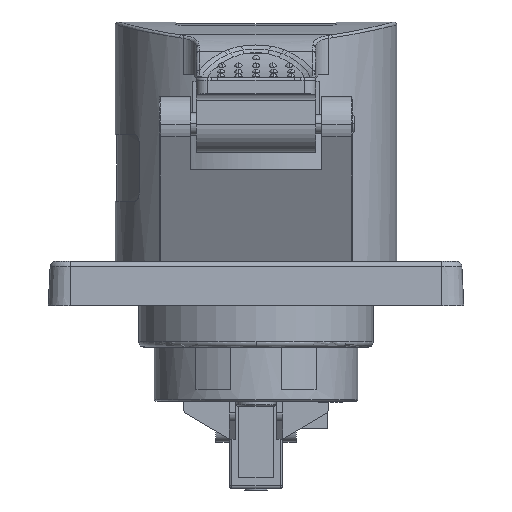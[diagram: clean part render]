
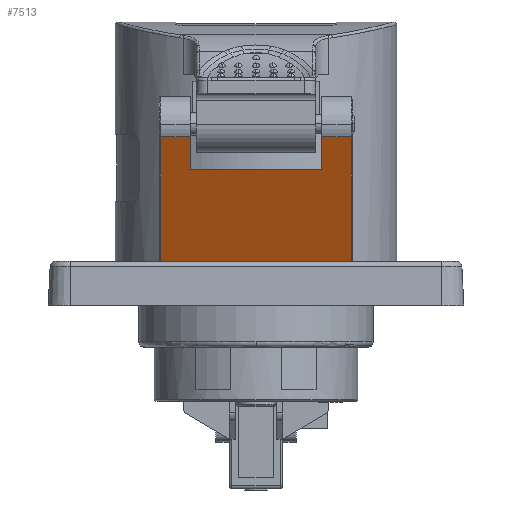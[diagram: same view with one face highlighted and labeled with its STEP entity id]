
A CAD part, front view. The second image highlights one B-rep face of the part: STEP entity #7513.
In plain terms, the highlighted planar face has unit normal (0, -0.896, -0.444).
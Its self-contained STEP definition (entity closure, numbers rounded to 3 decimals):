
#881 = EDGE_CURVE ( 'NONE', #2577, #8310, #34974, .T. ) ;
#1560 = DIRECTION ( 'NONE',  ( 0., -0.444, 0.896 ) ) ;
#1894 = ORIENTED_EDGE ( 'NONE', *, *, #2309, .T. ) ;
#1909 = EDGE_LOOP ( 'NONE', ( #6231, #19127, #1894, #14013, #7553, #20599, #12529, #8123 ) ) ;
#2309 = EDGE_CURVE ( 'NONE', #8310, #14913, #34845, .T. ) ;
#2346 = PLANE ( 'NONE',  #7598 ) ;
#2577 = VERTEX_POINT ( 'NONE', #11176 ) ;
#3553 = EDGE_CURVE ( 'NONE', #14913, #8889, #7227, .T. ) ;
#4931 = EDGE_CURVE ( 'NONE', #31989, #18141, #16555, .T. ) ;
#5015 = CARTESIAN_POINT ( 'NONE',  ( -198.972, -36.373, 12.955 ) ) ;
#6231 = ORIENTED_EDGE ( 'NONE', *, *, #20407, .F. ) ;
#6609 = VECTOR ( 'NONE', #12915, 1000. ) ;
#7227 = LINE ( 'NONE', #18798, #6609 ) ;
#7513 = ADVANCED_FACE ( 'NONE', ( #18581 ), #2346, .T. ) ;
#7553 = ORIENTED_EDGE ( 'NONE', *, *, #25583, .T. ) ;
#7598 = AXIS2_PLACEMENT_3D ( 'NONE', #34595, #15721, #8070 ) ;
#8070 = DIRECTION ( 'NONE',  ( 0., 0.444, -0.896 ) ) ;
#8123 = ORIENTED_EDGE ( 'NONE', *, *, #19710, .T. ) ;
#8310 = VERTEX_POINT ( 'NONE', #27066 ) ;
#8641 = DIRECTION ( 'NONE',  ( -1., 0., 0. ) ) ;
#8889 = VERTEX_POINT ( 'NONE', #34833 ) ;
#9063 = VECTOR ( 'NONE', #1560, 1000. ) ;
#9268 = VECTOR ( 'NONE', #14953, 1000. ) ;
#9922 = CARTESIAN_POINT ( 'NONE',  ( -228.022, -25.241, -9.526 ) ) ;
#11176 = CARTESIAN_POINT ( 'NONE',  ( -222.672, -36.373, 12.955 ) ) ;
#12529 = ORIENTED_EDGE ( 'NONE', *, *, #4931, .T. ) ;
#12915 = DIRECTION ( 'NONE',  ( 1., 0., 0. ) ) ;
#13263 = VERTEX_POINT ( 'NONE', #19056 ) ;
#13878 = CARTESIAN_POINT ( 'NONE',  ( -198.972, -36.373, 12.955 ) ) ;
#14013 = ORIENTED_EDGE ( 'NONE', *, *, #3553, .T. ) ;
#14019 = VECTOR ( 'NONE', #21507, 1000. ) ;
#14468 = CARTESIAN_POINT ( 'NONE',  ( -222.672, -33.461, 7.074 ) ) ;
#14913 = VERTEX_POINT ( 'NONE', #9922 ) ;
#14953 = DIRECTION ( 'NONE',  ( 0., 0.444, -0.896 ) ) ;
#15029 = LINE ( 'NONE', #25916, #15960 ) ;
#15721 = DIRECTION ( 'NONE',  ( 0., -0.896, -0.444 ) ) ;
#15960 = VECTOR ( 'NONE', #18056, 1000. ) ;
#16280 = DIRECTION ( 'NONE',  ( -1., 0., 0. ) ) ;
#16555 = LINE ( 'NONE', #13878, #31632 ) ;
#17307 = EDGE_CURVE ( 'NONE', #13263, #31989, #22188, .T. ) ;
#18056 = DIRECTION ( 'NONE',  ( -1., 0., 0. ) ) ;
#18141 = VERTEX_POINT ( 'NONE', #22420 ) ;
#18581 = FACE_OUTER_BOUND ( 'NONE', #1909, .T. ) ;
#18798 = CARTESIAN_POINT ( 'NONE',  ( -244.322, -25.241, -9.526 ) ) ;
#19056 = CARTESIAN_POINT ( 'NONE',  ( -193.622, -36.373, 12.955 ) ) ;
#19127 = ORIENTED_EDGE ( 'NONE', *, *, #881, .T. ) ;
#19710 = EDGE_CURVE ( 'NONE', #18141, #25145, #15029, .T. ) ;
#20407 = EDGE_CURVE ( 'NONE', #2577, #25145, #28339, .T. ) ;
#20599 = ORIENTED_EDGE ( 'NONE', *, *, #17307, .T. ) ;
#21507 = DIRECTION ( 'NONE',  ( 0., 0.444, -0.896 ) ) ;
#21993 = CARTESIAN_POINT ( 'NONE',  ( -173.321, -36.373, 12.955 ) ) ;
#22188 = LINE ( 'NONE', #24872, #33048 ) ;
#22420 = CARTESIAN_POINT ( 'NONE',  ( -198.972, -33.461, 7.074 ) ) ;
#24781 = DIRECTION ( 'NONE',  ( 0., 0.444, -0.896 ) ) ;
#24872 = CARTESIAN_POINT ( 'NONE',  ( -173.321, -36.373, 12.955 ) ) ;
#25145 = VERTEX_POINT ( 'NONE', #14468 ) ;
#25583 = EDGE_CURVE ( 'NONE', #8889, #13263, #34168, .T. ) ;
#25916 = CARTESIAN_POINT ( 'NONE',  ( -188.322, -33.461, 7.074 ) ) ;
#27066 = CARTESIAN_POINT ( 'NONE',  ( -228.022, -36.373, 12.955 ) ) ;
#28339 = LINE ( 'NONE', #34335, #9268 ) ;
#31632 = VECTOR ( 'NONE', #24781, 1000. ) ;
#31989 = VERTEX_POINT ( 'NONE', #5015 ) ;
#32363 = CARTESIAN_POINT ( 'NONE',  ( -228.022, -25.241, -9.526 ) ) ;
#32776 = VECTOR ( 'NONE', #16280, 1000. ) ;
#33048 = VECTOR ( 'NONE', #8641, 1000. ) ;
#33665 = CARTESIAN_POINT ( 'NONE',  ( -193.622, -36.373, 12.955 ) ) ;
#34168 = LINE ( 'NONE', #33665, #9063 ) ;
#34335 = CARTESIAN_POINT ( 'NONE',  ( -222.672, -36.373, 12.955 ) ) ;
#34595 = CARTESIAN_POINT ( 'NONE',  ( -188.322, -37.124, 14.47 ) ) ;
#34833 = CARTESIAN_POINT ( 'NONE',  ( -193.622, -25.241, -9.526 ) ) ;
#34845 = LINE ( 'NONE', #32363, #14019 ) ;
#34974 = LINE ( 'NONE', #21993, #32776 ) ;
